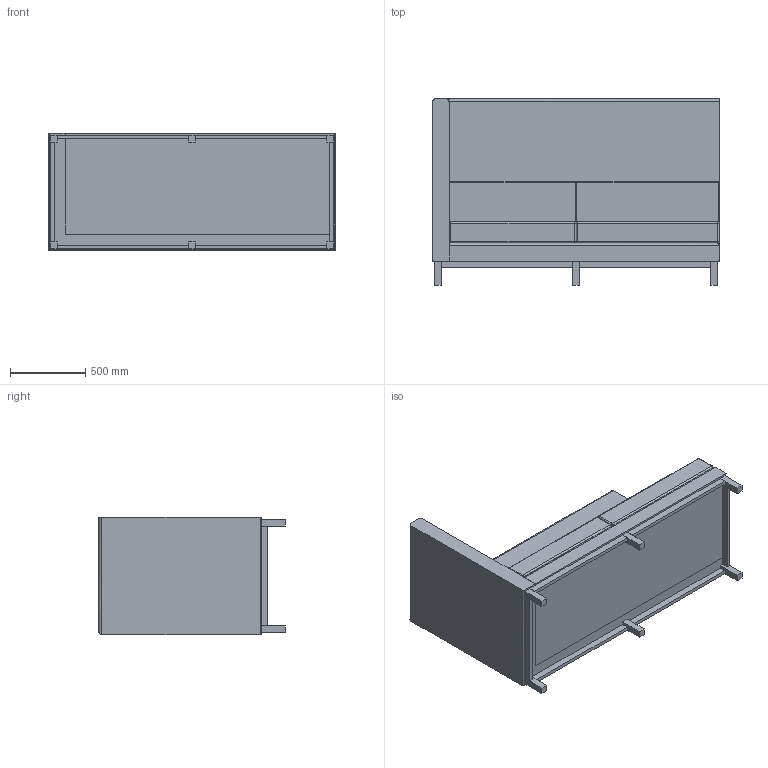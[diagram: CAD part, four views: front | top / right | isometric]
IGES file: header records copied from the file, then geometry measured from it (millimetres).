
Start section: SolidWorks IGES file using analytic representation for surfaces
Global section: file name: P:\3D CAD BLOCKS\ARTHUR CITYSCAPE\HB Plain Compact RH\IGS\ART-HB-PLAIN-COMP-RH-ART-CITY-RH.IGS; native system: SolidWorks 2012; preprocessor: SolidWorks 2012; author: tom; date: 160523.091519; units: millimetre
Bounding box: 1910 x 1240 x 780 mm (x, y, z)
Surface area: 14647687.7 mm2 (no closed solid volume)
Topology: 0 solids, 0 shells, 200 faces, 972 edges, 965 vertices
Faces by surface type: bspline 110, revolution 90
